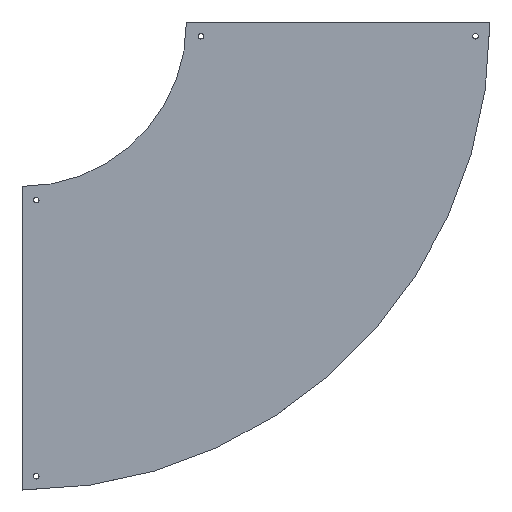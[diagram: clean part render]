
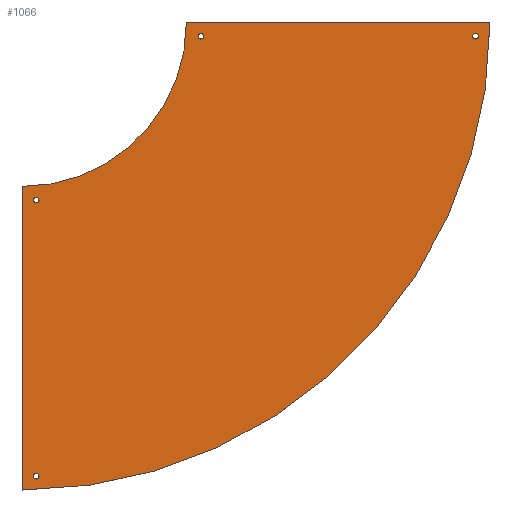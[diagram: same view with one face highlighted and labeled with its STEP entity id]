
A CAD part, top view. The second image highlights one B-rep face of the part: STEP entity #1066.
In plain terms, the highlighted planar face has unit normal (0, 0, 1).
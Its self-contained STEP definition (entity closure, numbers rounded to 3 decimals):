
#49=FACE_BOUND('',#205,.T.);
#50=FACE_BOUND('',#206,.T.);
#51=FACE_BOUND('',#207,.T.);
#52=FACE_BOUND('',#208,.T.);
#63=CIRCLE('',#1156,298.5);
#64=CIRCLE('',#1157,851.5);
#65=CIRCLE('',#1158,5.);
#66=CIRCLE('',#1159,5.);
#67=CIRCLE('',#1160,5.);
#68=CIRCLE('',#1161,5.);
#69=CIRCLE('',#1162,5.);
#70=CIRCLE('',#1163,5.);
#71=CIRCLE('',#1164,5.);
#72=CIRCLE('',#1165,5.);
#134=FACE_OUTER_BOUND('',#204,.T.);
#204=EDGE_LOOP('',(#826,#827,#828,#829,#830,#831,#832,#833));
#205=EDGE_LOOP('',(#834,#835));
#206=EDGE_LOOP('',(#836,#837));
#207=EDGE_LOOP('',(#838,#839));
#208=EDGE_LOOP('',(#840,#841));
#297=LINE('',#1670,#405);
#298=LINE('',#1673,#406);
#306=LINE('',#1708,#414);
#307=LINE('',#1713,#415);
#308=LINE('',#1715,#416);
#309=LINE('',#1717,#417);
#405=VECTOR('',#1333,304.8);
#406=VECTOR('',#1336,304.8);
#414=VECTOR('',#1368,304.8);
#415=VECTOR('',#1373,304.8);
#416=VECTOR('',#1374,304.8);
#417=VECTOR('',#1375,304.8);
#494=VERTEX_POINT('',#1663);
#497=VERTEX_POINT('',#1668);
#498=VERTEX_POINT('',#1672);
#513=VERTEX_POINT('',#1706);
#514=VERTEX_POINT('',#1710);
#515=VERTEX_POINT('',#1712);
#516=VERTEX_POINT('',#1714);
#517=VERTEX_POINT('',#1716);
#518=VERTEX_POINT('',#1719);
#519=VERTEX_POINT('',#1720);
#520=VERTEX_POINT('',#1723);
#521=VERTEX_POINT('',#1724);
#522=VERTEX_POINT('',#1727);
#523=VERTEX_POINT('',#1728);
#524=VERTEX_POINT('',#1731);
#525=VERTEX_POINT('',#1732);
#609=EDGE_CURVE('',#497,#494,#297,.T.);
#610=EDGE_CURVE('',#494,#498,#298,.T.);
#628=EDGE_CURVE('',#513,#497,#306,.T.);
#629=EDGE_CURVE('',#513,#514,#63,.T.);
#630=EDGE_CURVE('',#514,#515,#307,.T.);
#631=EDGE_CURVE('',#515,#516,#308,.T.);
#632=EDGE_CURVE('',#516,#517,#309,.T.);
#633=EDGE_CURVE('',#517,#498,#64,.T.);
#634=EDGE_CURVE('',#518,#519,#65,.T.);
#635=EDGE_CURVE('',#519,#518,#66,.T.);
#636=EDGE_CURVE('',#520,#521,#67,.T.);
#637=EDGE_CURVE('',#521,#520,#68,.T.);
#638=EDGE_CURVE('',#522,#523,#69,.T.);
#639=EDGE_CURVE('',#523,#522,#70,.T.);
#640=EDGE_CURVE('',#524,#525,#71,.T.);
#641=EDGE_CURVE('',#525,#524,#72,.T.);
#826=ORIENTED_EDGE('',*,*,#609,.F.);
#827=ORIENTED_EDGE('',*,*,#628,.F.);
#828=ORIENTED_EDGE('',*,*,#629,.T.);
#829=ORIENTED_EDGE('',*,*,#630,.T.);
#830=ORIENTED_EDGE('',*,*,#631,.T.);
#831=ORIENTED_EDGE('',*,*,#632,.T.);
#832=ORIENTED_EDGE('',*,*,#633,.T.);
#833=ORIENTED_EDGE('',*,*,#610,.F.);
#834=ORIENTED_EDGE('',*,*,#634,.T.);
#835=ORIENTED_EDGE('',*,*,#635,.T.);
#836=ORIENTED_EDGE('',*,*,#636,.T.);
#837=ORIENTED_EDGE('',*,*,#637,.T.);
#838=ORIENTED_EDGE('',*,*,#638,.T.);
#839=ORIENTED_EDGE('',*,*,#639,.T.);
#840=ORIENTED_EDGE('',*,*,#640,.T.);
#841=ORIENTED_EDGE('',*,*,#641,.T.);
#1018=PLANE('',#1155);
#1066=ADVANCED_FACE('',(#134,#49,#50,#51,#52),#1018,.T.);
#1155=AXIS2_PLACEMENT_3D('',#1709,#1369,#1370);
#1156=AXIS2_PLACEMENT_3D('',#1711,#1371,#1372);
#1157=AXIS2_PLACEMENT_3D('',#1718,#1376,#1377);
#1158=AXIS2_PLACEMENT_3D('',#1721,#1378,#1379);
#1159=AXIS2_PLACEMENT_3D('',#1722,#1380,#1381);
#1160=AXIS2_PLACEMENT_3D('',#1725,#1382,#1383);
#1161=AXIS2_PLACEMENT_3D('',#1726,#1384,#1385);
#1162=AXIS2_PLACEMENT_3D('',#1729,#1386,#1387);
#1163=AXIS2_PLACEMENT_3D('',#1730,#1388,#1389);
#1164=AXIS2_PLACEMENT_3D('',#1733,#1390,#1391);
#1165=AXIS2_PLACEMENT_3D('',#1734,#1392,#1393);
#1333=DIRECTION('',(1.,0.,0.));
#1336=DIRECTION('',(0.,-1.,0.));
#1368=DIRECTION('',(0.,1.,0.));
#1369=DIRECTION('center_axis',(0.,0.,1.));
#1370=DIRECTION('ref_axis',(0.,-1.,0.));
#1371=DIRECTION('center_axis',(0.,0.,-1.));
#1372=DIRECTION('ref_axis',(1.,0.,0.));
#1373=DIRECTION('',(-1.,0.,0.));
#1374=DIRECTION('',(0.,-1.,0.));
#1375=DIRECTION('',(1.,0.,0.));
#1376=DIRECTION('center_axis',(0.,0.,1.));
#1377=DIRECTION('ref_axis',(1.,0.,0.));
#1378=DIRECTION('center_axis',(0.,0.,-1.));
#1379=DIRECTION('ref_axis',(1.,0.,0.));
#1380=DIRECTION('center_axis',(0.,0.,-1.));
#1381=DIRECTION('ref_axis',(1.,0.,0.));
#1382=DIRECTION('center_axis',(0.,0.,-1.));
#1383=DIRECTION('ref_axis',(1.,0.,0.));
#1384=DIRECTION('center_axis',(0.,0.,-1.));
#1385=DIRECTION('ref_axis',(1.,0.,0.));
#1386=DIRECTION('center_axis',(0.,0.,-1.));
#1387=DIRECTION('ref_axis',(1.,0.,0.));
#1388=DIRECTION('center_axis',(0.,0.,-1.));
#1389=DIRECTION('ref_axis',(1.,0.,0.));
#1390=DIRECTION('center_axis',(0.,0.,-1.));
#1391=DIRECTION('ref_axis',(1.,0.,0.));
#1392=DIRECTION('center_axis',(0.,0.,-1.));
#1393=DIRECTION('ref_axis',(1.,0.,0.));
#1663=CARTESIAN_POINT('',(276.5,576.,1.5));
#1668=CARTESIAN_POINT('',(-276.5,576.,1.5));
#1670=CARTESIAN_POINT('',(-276.5,576.,1.5));
#1672=CARTESIAN_POINT('',(276.5,575.,1.5));
#1673=CARTESIAN_POINT('',(276.5,576.,1.5));
#1706=CARTESIAN_POINT('',(-276.5,575.,1.5));
#1708=CARTESIAN_POINT('',(-276.5,576.,1.5));
#1709=CARTESIAN_POINT('Origin',(-276.5,576.,1.5));
#1710=CARTESIAN_POINT('',(-575.,276.5,1.5));
#1711=CARTESIAN_POINT('Origin',(-575.,575.,1.5));
#1712=CARTESIAN_POINT('',(-576.,276.5,1.5));
#1713=CARTESIAN_POINT('',(-575.,276.5,1.5));
#1714=CARTESIAN_POINT('',(-576.,-276.5,1.5));
#1715=CARTESIAN_POINT('',(-576.,-276.5,1.5));
#1716=CARTESIAN_POINT('',(-575.,-276.5,1.5));
#1717=CARTESIAN_POINT('',(-575.,-276.5,1.5));
#1718=CARTESIAN_POINT('Origin',(-575.,575.,1.5));
#1719=CARTESIAN_POINT('',(-545.,251.5,1.5));
#1720=CARTESIAN_POINT('',(-555.,251.5,1.5));
#1721=CARTESIAN_POINT('Origin',(-550.,251.5,1.5));
#1722=CARTESIAN_POINT('Origin',(-550.,251.5,1.5));
#1723=CARTESIAN_POINT('',(-545.,-251.5,1.5));
#1724=CARTESIAN_POINT('',(-555.,-251.5,1.5));
#1725=CARTESIAN_POINT('Origin',(-550.,-251.5,1.5));
#1726=CARTESIAN_POINT('Origin',(-550.,-251.5,1.5));
#1727=CARTESIAN_POINT('',(-245.,550.,1.5));
#1728=CARTESIAN_POINT('',(-255.,550.,1.5));
#1729=CARTESIAN_POINT('Origin',(-250.,550.,1.5));
#1730=CARTESIAN_POINT('Origin',(-250.,550.,1.5));
#1731=CARTESIAN_POINT('',(255.,550.,1.5));
#1732=CARTESIAN_POINT('',(245.,550.,1.5));
#1733=CARTESIAN_POINT('Origin',(250.,550.,1.5));
#1734=CARTESIAN_POINT('Origin',(250.,550.,1.5));
